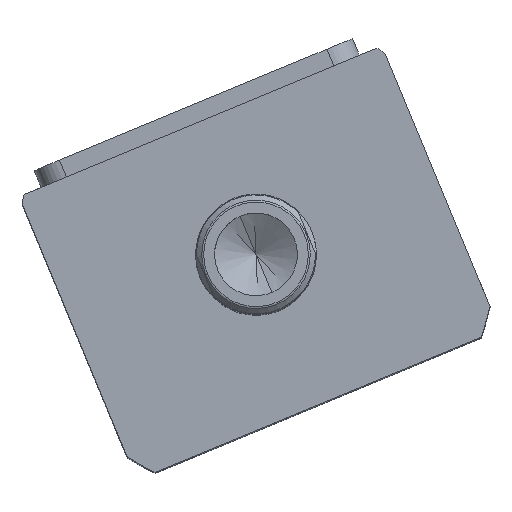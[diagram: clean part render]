
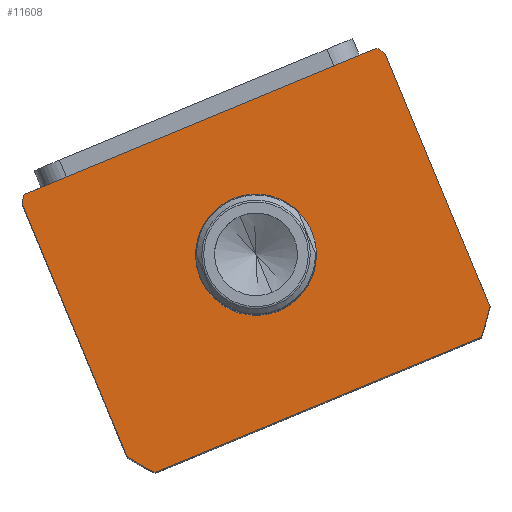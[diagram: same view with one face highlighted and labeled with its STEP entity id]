
A CAD part, top view. The second image highlights one B-rep face of the part: STEP entity #11608.
In plain terms, the highlighted planar face has unit normal (0, 0, 1) as drawn and (0, 0, -1) by its records, which use the part's own axes.
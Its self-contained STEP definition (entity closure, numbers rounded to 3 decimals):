
#35 = ORIENTED_EDGE ( 'NONE', *, *, #784, .F. ) ;
#127 = CIRCLE ( 'NONE', #10679, 17.5 ) ;
#438 = EDGE_CURVE ( 'NONE', #4953, #1349, #13679, .T. ) ;
#597 = CIRCLE ( 'NONE', #13750, 69.5 ) ;
#784 = EDGE_CURVE ( 'NONE', #1349, #5897, #597, .T. ) ;
#1349 = VERTEX_POINT ( 'NONE', #15529 ) ;
#1551 = ORIENTED_EDGE ( 'NONE', *, *, #14165, .F. ) ;
#1602 = CIRCLE ( 'NONE', #12712, 69.5 ) ;
#1884 = CARTESIAN_POINT ( 'NONE',  ( 0., 2.5, 0. ) ) ;
#1979 = VECTOR ( 'NONE', #4387, 1000. ) ;
#2336 = CARTESIAN_POINT ( 'NONE',  ( 17.5, 2.5, 0. ) ) ;
#2381 = CARTESIAN_POINT ( 'NONE',  ( -51.198, -44.5, 0. ) ) ;
#2741 = EDGE_CURVE ( 'NONE', #13571, #11004, #127, .T. ) ;
#2802 = DIRECTION ( 'NONE',  ( 0., 0., 1. ) ) ;
#2932 = LINE ( 'NONE', #3037, #13709 ) ;
#3037 = CARTESIAN_POINT ( 'NONE',  ( -57., 44.5, 0. ) ) ;
#3185 = PLANE ( 'NONE',  #16731 ) ;
#3361 = DIRECTION ( 'NONE',  ( 1., 0., 0. ) ) ;
#3840 = VERTEX_POINT ( 'NONE', #13427 ) ;
#3934 = DIRECTION ( 'NONE',  ( 0., 0., 1. ) ) ;
#3956 = AXIS2_PLACEMENT_3D ( 'NONE', #11585, #2802, #13070 ) ;
#4387 = DIRECTION ( 'NONE',  ( 0., -1., 0. ) ) ;
#4768 = LINE ( 'NONE', #13715, #8203 ) ;
#4853 = EDGE_CURVE ( 'NONE', #10979, #7991, #4768, .T. ) ;
#4953 = VERTEX_POINT ( 'NONE', #6824 ) ;
#5109 = DIRECTION ( 'NONE',  ( 1., 0., 0. ) ) ;
#5442 = CARTESIAN_POINT ( 'NONE',  ( 0., 2.5, 0. ) ) ;
#5897 = VERTEX_POINT ( 'NONE', #2381 ) ;
#5976 = DIRECTION ( 'NONE',  ( 0., 0., 1. ) ) ;
#6022 = AXIS2_PLACEMENT_3D ( 'NONE', #6628, #16886, #8106 ) ;
#6116 = DIRECTION ( 'NONE',  ( 1., 0., 0. ) ) ;
#6188 = VERTEX_POINT ( 'NONE', #13163 ) ;
#6319 = EDGE_CURVE ( 'NONE', #6188, #4953, #16470, .T. ) ;
#6628 = CARTESIAN_POINT ( 'NONE',  ( 0., 2.5, 0. ) ) ;
#6824 = CARTESIAN_POINT ( 'NONE',  ( -57., 42.265, 0. ) ) ;
#6875 = FACE_BOUND ( 'NONE', #17648, .T. ) ;
#6924 = DIRECTION ( 'NONE',  ( 1., 0., 0. ) ) ;
#7175 = EDGE_CURVE ( 'NONE', #5897, #3840, #9806, .T. ) ;
#7525 = DIRECTION ( 'NONE',  ( 0., 0., 1. ) ) ;
#7991 = VERTEX_POINT ( 'NONE', #17161 ) ;
#8106 = DIRECTION ( 'NONE',  ( 1., 0., 0. ) ) ;
#8172 = CARTESIAN_POINT ( 'NONE',  ( 57., -37.265, 0. ) ) ;
#8203 = VECTOR ( 'NONE', #14010, 1000. ) ;
#8712 = CIRCLE ( 'NONE', #3956, 69.5 ) ;
#8903 = EDGE_CURVE ( 'NONE', #11004, #13571, #15771, .T. ) ;
#9806 = LINE ( 'NONE', #13908, #17616 ) ;
#10479 = CARTESIAN_POINT ( 'NONE',  ( 0., 0., 0. ) ) ;
#10679 = AXIS2_PLACEMENT_3D ( 'NONE', #5442, #15720, #6924 ) ;
#10979 = VERTEX_POINT ( 'NONE', #8172 ) ;
#10980 = ORIENTED_EDGE ( 'NONE', *, *, #8903, .T. ) ;
#11004 = VERTEX_POINT ( 'NONE', #11121 ) ;
#11121 = CARTESIAN_POINT ( 'NONE',  ( -17.5, 2.5, 0. ) ) ;
#11346 = EDGE_CURVE ( 'NONE', #3840, #10979, #8712, .T. ) ;
#11360 = DIRECTION ( 'NONE',  ( 1., 0., 0. ) ) ;
#11585 = CARTESIAN_POINT ( 'NONE',  ( 0., 2.5, 0. ) ) ;
#11608 = ADVANCED_FACE ( 'NONE', ( #6875, #18117 ), #3185, .F. ) ;
#12157 = DIRECTION ( 'NONE',  ( 0., 0., 1. ) ) ;
#12712 = AXIS2_PLACEMENT_3D ( 'NONE', #1884, #12157, #3361 ) ;
#12815 = ORIENTED_EDGE ( 'NONE', *, *, #16848, .F. ) ;
#12967 = CARTESIAN_POINT ( 'NONE',  ( -57., 44.5, 0. ) ) ;
#13070 = DIRECTION ( 'NONE',  ( 1., 0., 0. ) ) ;
#13163 = CARTESIAN_POINT ( 'NONE',  ( -55.374, 44.5, 0. ) ) ;
#13427 = CARTESIAN_POINT ( 'NONE',  ( 51.198, -44.5, 0. ) ) ;
#13530 = ORIENTED_EDGE ( 'NONE', *, *, #438, .F. ) ;
#13571 = VERTEX_POINT ( 'NONE', #2336 ) ;
#13679 = LINE ( 'NONE', #12967, #1979 ) ;
#13709 = VECTOR ( 'NONE', #18356, 1000. ) ;
#13715 = CARTESIAN_POINT ( 'NONE',  ( 57., 44.5, 0. ) ) ;
#13750 = AXIS2_PLACEMENT_3D ( 'NONE', #14830, #3934, #11360 ) ;
#13908 = CARTESIAN_POINT ( 'NONE',  ( -57., -44.5, 0. ) ) ;
#13911 = ORIENTED_EDGE ( 'NONE', *, *, #2741, .T. ) ;
#14010 = DIRECTION ( 'NONE',  ( 0., 1., 0. ) ) ;
#14165 = EDGE_CURVE ( 'NONE', #7991, #14434, #1602, .T. ) ;
#14248 = EDGE_LOOP ( 'NONE', ( #1551, #15367, #17012, #17873, #35, #13530, #14341, #12815 ) ) ;
#14341 = ORIENTED_EDGE ( 'NONE', *, *, #6319, .F. ) ;
#14434 = VERTEX_POINT ( 'NONE', #18339 ) ;
#14770 = CARTESIAN_POINT ( 'NONE',  ( 0., 2.5, 0. ) ) ;
#14830 = CARTESIAN_POINT ( 'NONE',  ( 0., 2.5, 0. ) ) ;
#15367 = ORIENTED_EDGE ( 'NONE', *, *, #4853, .F. ) ;
#15529 = CARTESIAN_POINT ( 'NONE',  ( -57., -37.265, 0. ) ) ;
#15720 = DIRECTION ( 'NONE',  ( 0., 0., 1. ) ) ;
#15771 = CIRCLE ( 'NONE', #6022, 17.5 ) ;
#16244 = DIRECTION ( 'NONE',  ( 1., 0., 0. ) ) ;
#16470 = CIRCLE ( 'NONE', #17102, 69.5 ) ;
#16731 = AXIS2_PLACEMENT_3D ( 'NONE', #10479, #7525, #6116 ) ;
#16848 = EDGE_CURVE ( 'NONE', #14434, #6188, #2932, .T. ) ;
#16886 = DIRECTION ( 'NONE',  ( 0., 0., 1. ) ) ;
#17012 = ORIENTED_EDGE ( 'NONE', *, *, #11346, .F. ) ;
#17102 = AXIS2_PLACEMENT_3D ( 'NONE', #14770, #5976, #16244 ) ;
#17161 = CARTESIAN_POINT ( 'NONE',  ( 57., 42.265, 0. ) ) ;
#17616 = VECTOR ( 'NONE', #5109, 1000. ) ;
#17648 = EDGE_LOOP ( 'NONE', ( #13911, #10980 ) ) ;
#17873 = ORIENTED_EDGE ( 'NONE', *, *, #7175, .F. ) ;
#18117 = FACE_OUTER_BOUND ( 'NONE', #14248, .T. ) ;
#18339 = CARTESIAN_POINT ( 'NONE',  ( 55.374, 44.5, 0. ) ) ;
#18356 = DIRECTION ( 'NONE',  ( -1., 0., 0. ) ) ;
